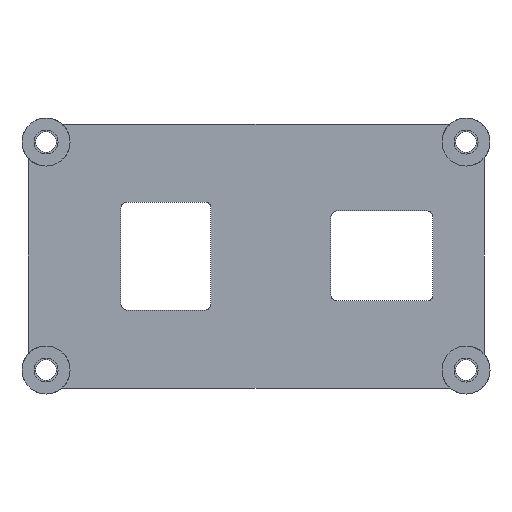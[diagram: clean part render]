
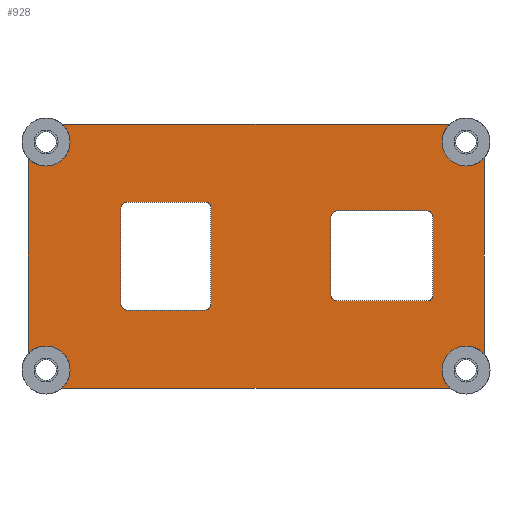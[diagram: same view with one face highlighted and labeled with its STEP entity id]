
A CAD part, front view. The second image highlights one B-rep face of the part: STEP entity #928.
In plain terms, the highlighted planar face has unit normal (0, -1, 0).
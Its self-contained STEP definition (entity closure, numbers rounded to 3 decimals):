
#26=FACE_BOUND('',#156,.T.);
#27=FACE_BOUND('',#157,.T.);
#48=PLANE('',#1040);
#93=FACE_OUTER_BOUND('',#155,.T.);
#155=EDGE_LOOP('',(#756,#757,#758,#759,#760,#761,#762,#763,#764,#765));
#156=EDGE_LOOP('',(#766,#767,#768,#769,#770,#771,#772,#773));
#157=EDGE_LOOP('',(#774,#775,#776,#777,#778,#779,#780,#781));
#180=LINE('',#1370,#256);
#187=LINE('',#1388,#263);
#191=LINE('',#1403,#267);
#193=LINE('',#1406,#269);
#196=LINE('',#1418,#272);
#203=LINE('',#1436,#279);
#207=LINE('',#1451,#283);
#209=LINE('',#1454,#285);
#229=LINE('',#1558,#305);
#234=LINE('',#1571,#310);
#235=LINE('',#1573,#311);
#236=LINE('',#1577,#312);
#256=VECTOR('',#1078,10.);
#263=VECTOR('',#1093,10.);
#267=VECTOR('',#1111,10.);
#269=VECTOR('',#1115,10.);
#272=VECTOR('',#1126,10.);
#279=VECTOR('',#1141,10.);
#283=VECTOR('',#1159,10.);
#285=VECTOR('',#1163,10.);
#305=VECTOR('',#1273,10.);
#310=VECTOR('',#1288,10.);
#311=VECTOR('',#1289,10.);
#312=VECTOR('',#1292,10.);
#331=CIRCLE('',#961,1.);
#333=CIRCLE('',#965,1.);
#335=CIRCLE('',#969,1.);
#337=CIRCLE('',#972,1.);
#339=CIRCLE('',#977,1.);
#341=CIRCLE('',#981,1.);
#343=CIRCLE('',#985,1.);
#345=CIRCLE('',#988,1.);
#362=CIRCLE('',#1020,4.);
#364=CIRCLE('',#1022,4.);
#376=CIRCLE('',#1038,4.);
#377=CIRCLE('',#1041,4.);
#378=CIRCLE('',#1042,4.);
#379=CIRCLE('',#1043,4.);
#388=VERTEX_POINT('',#1363);
#389=VERTEX_POINT('',#1365);
#390=VERTEX_POINT('',#1369);
#394=VERTEX_POINT('',#1378);
#395=VERTEX_POINT('',#1380);
#397=VERTEX_POINT('',#1386);
#399=VERTEX_POINT('',#1392);
#401=VERTEX_POINT('',#1398);
#404=VERTEX_POINT('',#1411);
#405=VERTEX_POINT('',#1413);
#406=VERTEX_POINT('',#1417);
#410=VERTEX_POINT('',#1426);
#411=VERTEX_POINT('',#1428);
#413=VERTEX_POINT('',#1434);
#415=VERTEX_POINT('',#1440);
#417=VERTEX_POINT('',#1446);
#434=VERTEX_POINT('',#1508);
#436=VERTEX_POINT('',#1511);
#438=VERTEX_POINT('',#1516);
#456=VERTEX_POINT('',#1557);
#457=VERTEX_POINT('',#1561);
#459=VERTEX_POINT('',#1566);
#460=VERTEX_POINT('',#1572);
#461=VERTEX_POINT('',#1574);
#462=VERTEX_POINT('',#1576);
#463=VERTEX_POINT('',#1578);
#476=EDGE_CURVE('',#389,#388,#331,.T.);
#478=EDGE_CURVE('',#390,#389,#180,.T.);
#483=EDGE_CURVE('',#395,#394,#333,.T.);
#487=EDGE_CURVE('',#394,#397,#187,.T.);
#490=EDGE_CURVE('',#397,#399,#335,.T.);
#492=EDGE_CURVE('',#401,#390,#337,.T.);
#495=EDGE_CURVE('',#399,#401,#191,.T.);
#497=EDGE_CURVE('',#388,#395,#193,.T.);
#500=EDGE_CURVE('',#405,#404,#339,.T.);
#502=EDGE_CURVE('',#406,#405,#196,.T.);
#507=EDGE_CURVE('',#411,#410,#341,.T.);
#511=EDGE_CURVE('',#410,#413,#203,.T.);
#514=EDGE_CURVE('',#413,#415,#343,.T.);
#516=EDGE_CURVE('',#417,#406,#345,.T.);
#519=EDGE_CURVE('',#415,#417,#207,.T.);
#521=EDGE_CURVE('',#404,#411,#209,.T.);
#547=EDGE_CURVE('',#436,#434,#362,.T.);
#550=EDGE_CURVE('',#438,#436,#364,.T.);
#570=EDGE_CURVE('',#438,#456,#229,.T.);
#576=EDGE_CURVE('',#457,#459,#376,.T.);
#577=EDGE_CURVE('',#457,#434,#234,.T.);
#578=EDGE_CURVE('',#460,#459,#235,.T.);
#579=EDGE_CURVE('',#460,#461,#377,.T.);
#580=EDGE_CURVE('',#462,#461,#236,.T.);
#581=EDGE_CURVE('',#462,#463,#378,.T.);
#582=EDGE_CURVE('',#463,#456,#379,.T.);
#756=ORIENTED_EDGE('',*,*,#550,.T.);
#757=ORIENTED_EDGE('',*,*,#547,.T.);
#758=ORIENTED_EDGE('',*,*,#577,.F.);
#759=ORIENTED_EDGE('',*,*,#576,.T.);
#760=ORIENTED_EDGE('',*,*,#578,.F.);
#761=ORIENTED_EDGE('',*,*,#579,.T.);
#762=ORIENTED_EDGE('',*,*,#580,.F.);
#763=ORIENTED_EDGE('',*,*,#581,.T.);
#764=ORIENTED_EDGE('',*,*,#582,.T.);
#765=ORIENTED_EDGE('',*,*,#570,.F.);
#766=ORIENTED_EDGE('',*,*,#483,.T.);
#767=ORIENTED_EDGE('',*,*,#487,.T.);
#768=ORIENTED_EDGE('',*,*,#490,.T.);
#769=ORIENTED_EDGE('',*,*,#495,.T.);
#770=ORIENTED_EDGE('',*,*,#492,.T.);
#771=ORIENTED_EDGE('',*,*,#478,.T.);
#772=ORIENTED_EDGE('',*,*,#476,.T.);
#773=ORIENTED_EDGE('',*,*,#497,.T.);
#774=ORIENTED_EDGE('',*,*,#507,.T.);
#775=ORIENTED_EDGE('',*,*,#511,.T.);
#776=ORIENTED_EDGE('',*,*,#514,.T.);
#777=ORIENTED_EDGE('',*,*,#519,.T.);
#778=ORIENTED_EDGE('',*,*,#516,.T.);
#779=ORIENTED_EDGE('',*,*,#502,.T.);
#780=ORIENTED_EDGE('',*,*,#500,.T.);
#781=ORIENTED_EDGE('',*,*,#521,.T.);
#928=ADVANCED_FACE('',(#93,#26,#27),#48,.F.);
#961=AXIS2_PLACEMENT_3D('',#1366,#1073,#1074);
#965=AXIS2_PLACEMENT_3D('',#1381,#1086,#1087);
#969=AXIS2_PLACEMENT_3D('',#1394,#1099,#1100);
#972=AXIS2_PLACEMENT_3D('',#1399,#1105,#1106);
#977=AXIS2_PLACEMENT_3D('',#1414,#1121,#1122);
#981=AXIS2_PLACEMENT_3D('',#1429,#1134,#1135);
#985=AXIS2_PLACEMENT_3D('',#1442,#1147,#1148);
#988=AXIS2_PLACEMENT_3D('',#1447,#1153,#1154);
#1020=AXIS2_PLACEMENT_3D('',#1512,#1231,#1232);
#1022=AXIS2_PLACEMENT_3D('',#1517,#1236,#1237);
#1038=AXIS2_PLACEMENT_3D('',#1568,#1282,#1283);
#1040=AXIS2_PLACEMENT_3D('',#1570,#1286,#1287);
#1041=AXIS2_PLACEMENT_3D('',#1575,#1290,#1291);
#1042=AXIS2_PLACEMENT_3D('',#1579,#1293,#1294);
#1043=AXIS2_PLACEMENT_3D('',#1580,#1295,#1296);
#1073=DIRECTION('center_axis',(0.,1.,0.));
#1074=DIRECTION('ref_axis',(0.707,0.,-0.707));
#1078=DIRECTION('',(0.,0.,-1.));
#1086=DIRECTION('center_axis',(0.,1.,0.));
#1087=DIRECTION('ref_axis',(-0.707,0.,-0.707));
#1093=DIRECTION('',(0.,0.,1.));
#1099=DIRECTION('center_axis',(0.,1.,0.));
#1100=DIRECTION('ref_axis',(-0.707,0.,0.707));
#1105=DIRECTION('center_axis',(0.,1.,0.));
#1106=DIRECTION('ref_axis',(0.707,0.,0.707));
#1111=DIRECTION('',(1.,0.,0.));
#1115=DIRECTION('',(-1.,0.,0.));
#1121=DIRECTION('center_axis',(0.,1.,0.));
#1122=DIRECTION('ref_axis',(0.707,0.,-0.707));
#1126=DIRECTION('',(0.,0.,-1.));
#1134=DIRECTION('center_axis',(0.,1.,0.));
#1135=DIRECTION('ref_axis',(-0.707,0.,-0.707));
#1141=DIRECTION('',(0.,0.,1.));
#1147=DIRECTION('center_axis',(0.,1.,0.));
#1148=DIRECTION('ref_axis',(-0.707,0.,0.707));
#1153=DIRECTION('center_axis',(0.,1.,0.));
#1154=DIRECTION('ref_axis',(0.707,0.,0.707));
#1159=DIRECTION('',(1.,0.,0.));
#1163=DIRECTION('',(-1.,0.,0.));
#1231=DIRECTION('center_axis',(0.,1.,0.));
#1232=DIRECTION('ref_axis',(-1.,0.,0.));
#1236=DIRECTION('center_axis',(0.,1.,0.));
#1237=DIRECTION('ref_axis',(-1.,0.,0.));
#1273=DIRECTION('',(0.,0.,1.));
#1282=DIRECTION('center_axis',(0.,1.,0.));
#1283=DIRECTION('ref_axis',(-1.,0.,0.));
#1286=DIRECTION('center_axis',(0.,1.,0.));
#1287=DIRECTION('ref_axis',(-1.,0.,0.));
#1288=DIRECTION('',(-1.,0.,0.));
#1289=DIRECTION('',(0.,0.,-1.));
#1290=DIRECTION('center_axis',(0.,1.,0.));
#1291=DIRECTION('ref_axis',(-1.,0.,0.));
#1292=DIRECTION('',(1.,0.,0.));
#1293=DIRECTION('center_axis',(0.,1.,0.));
#1294=DIRECTION('ref_axis',(-1.,0.,0.));
#1295=DIRECTION('center_axis',(0.,1.,0.));
#1296=DIRECTION('ref_axis',(-1.,0.,0.));
#1363=CARTESIAN_POINT('',(-55.5,100.,25.));
#1365=CARTESIAN_POINT('',(-54.5,100.,26.));
#1366=CARTESIAN_POINT('Origin',(-55.5,100.,26.));
#1369=CARTESIAN_POINT('',(-54.5,100.,42.));
#1370=CARTESIAN_POINT('',(-54.5,100.,38.5));
#1378=CARTESIAN_POINT('',(-69.5,100.,26.));
#1380=CARTESIAN_POINT('',(-68.5,100.,25.));
#1381=CARTESIAN_POINT('Origin',(-68.5,100.,26.));
#1386=CARTESIAN_POINT('',(-69.5,100.,42.));
#1388=CARTESIAN_POINT('',(-69.5,100.,29.5));
#1392=CARTESIAN_POINT('',(-68.5,100.,43.));
#1394=CARTESIAN_POINT('Origin',(-68.5,100.,42.));
#1398=CARTESIAN_POINT('',(-55.5,100.,43.));
#1399=CARTESIAN_POINT('Origin',(-55.5,100.,42.));
#1403=CARTESIAN_POINT('',(-58.25,100.,43.));
#1406=CARTESIAN_POINT('',(-50.75,100.,25.));
#1411=CARTESIAN_POINT('',(-18.5,100.,26.5));
#1413=CARTESIAN_POINT('',(-17.5,100.,27.5));
#1414=CARTESIAN_POINT('Origin',(-18.5,100.,27.5));
#1417=CARTESIAN_POINT('',(-17.5,100.,40.5));
#1418=CARTESIAN_POINT('',(-17.5,100.,37.75));
#1426=CARTESIAN_POINT('',(-34.5,100.,27.5));
#1428=CARTESIAN_POINT('',(-33.5,100.,26.5));
#1429=CARTESIAN_POINT('Origin',(-33.5,100.,27.5));
#1434=CARTESIAN_POINT('',(-34.5,100.,40.5));
#1436=CARTESIAN_POINT('',(-34.5,100.,30.25));
#1440=CARTESIAN_POINT('',(-33.5,100.,41.5));
#1442=CARTESIAN_POINT('Origin',(-33.5,100.,40.5));
#1446=CARTESIAN_POINT('',(-18.5,100.,41.5));
#1447=CARTESIAN_POINT('Origin',(-18.5,100.,40.5));
#1451=CARTESIAN_POINT('',(-40.75,100.,41.5));
#1454=CARTESIAN_POINT('',(-32.25,100.,26.5));
#1508=CARTESIAN_POINT('',(-79.354,100.,12.));
#1511=CARTESIAN_POINT('',(-78.,100.,15.));
#1512=CARTESIAN_POINT('Origin',(-82.,100.,15.));
#1516=CARTESIAN_POINT('',(-85.,100.,17.646));
#1517=CARTESIAN_POINT('Origin',(-82.,100.,15.));
#1557=CARTESIAN_POINT('',(-85.,100.,50.354));
#1558=CARTESIAN_POINT('',(-85.,100.,12.));
#1561=CARTESIAN_POINT('',(-14.646,100.,12.));
#1566=CARTESIAN_POINT('',(-9.,100.,17.646));
#1568=CARTESIAN_POINT('Origin',(-12.,100.,15.));
#1570=CARTESIAN_POINT('Origin',(-47.,100.,34.));
#1571=CARTESIAN_POINT('',(-9.,100.,12.));
#1572=CARTESIAN_POINT('',(-9.,100.,50.354));
#1573=CARTESIAN_POINT('',(-9.,100.,56.));
#1574=CARTESIAN_POINT('',(-14.646,100.,56.));
#1575=CARTESIAN_POINT('Origin',(-12.,100.,53.));
#1576=CARTESIAN_POINT('',(-79.354,100.,56.));
#1577=CARTESIAN_POINT('',(-85.,100.,56.));
#1578=CARTESIAN_POINT('',(-78.,100.,53.));
#1579=CARTESIAN_POINT('Origin',(-82.,100.,53.));
#1580=CARTESIAN_POINT('Origin',(-82.,100.,53.));
